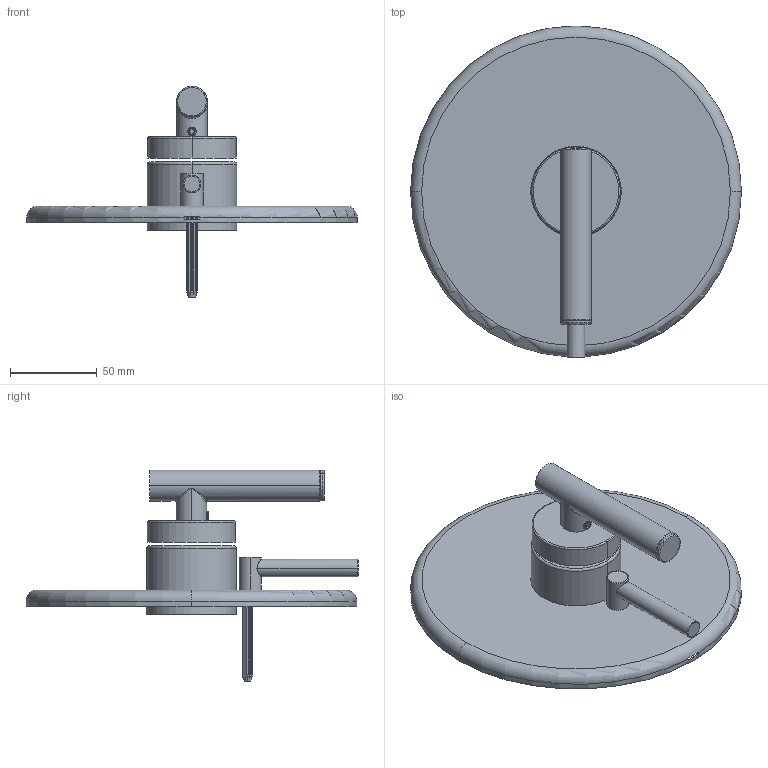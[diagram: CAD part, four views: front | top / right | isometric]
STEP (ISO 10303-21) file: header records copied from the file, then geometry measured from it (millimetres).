
FILE_DESCRIPTION (( 'STEP AP214' ), '1' );
FILE_NAME ('S3590BTRM.STEP', '2025-01-15T07:36:06', ( '' ), ( '' ), 'SwSTEP 2.0', 'SolidWorks 2023', '' );
FILE_SCHEMA (( 'AUTOMOTIVE_DESIGN' ));
Length unit declared in the file: inch
Products named in the file (1): S3590BTRM
Bounding box: 190.5 x 191.13 x 121.89 mm (x, y, z)
Surface area: 88723.4 mm2 (no closed solid volume)
Topology: 0 solids, 9 shells, 94 faces, 282 edges, 198 vertices
Faces by surface type: plane 40, cylinder 32, torus 15, cone 4, bspline 3
Entity records: 4323 total; most frequent: CARTESIAN_POINT 1795, DIRECTION 542, ORIENTED_EDGE 472, EDGE_CURVE 282, AXIS2_PLACEMENT_3D 212, VERTEX_POINT 198, CIRCLE 120, VECTOR 118
